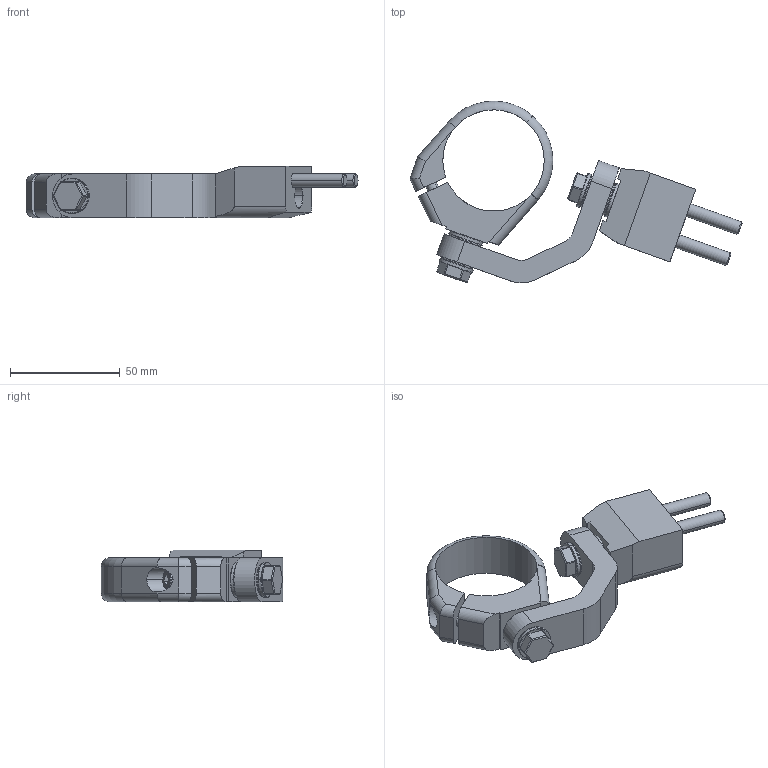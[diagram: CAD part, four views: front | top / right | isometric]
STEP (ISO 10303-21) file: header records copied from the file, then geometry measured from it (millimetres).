
FILE_DESCRIPTION((''),'2;1');
FILE_NAME('D58_7','2007-12-21T',('sdanet'),(''),'PRO/ENGINEER BY PARAMETRIC TECHNOLOGY CORPORATION, 2007310','PRO/ENGINEER BY PARAMETRIC TECHNOLOGY CORPORATION, 2007310','');
FILE_SCHEMA(('CONFIG_CONTROL_DESIGN'));
Length unit declared in the file: millimetre
Products named in the file (1): D58_7
Bounding box: 150.93 x 82.62 x 23.53 mm (x, y, z)
Volume: 73467.5 mm3; surface area: 24023.7 mm2
Topology: 1 solids, 1 shells, 271 faces, 705 edges, 444 vertices
Faces by surface type: plane 101, cylinder 78, cone 52, torus 40
Entity records: 8445 total; most frequent: CARTESIAN_POINT 1652, DIRECTION 1499, ORIENTED_EDGE 1378, EDGE_CURVE 689, AXIS2_PLACEMENT_3D 587, VERTEX_POINT 444, VECTOR 325, LINE 325
